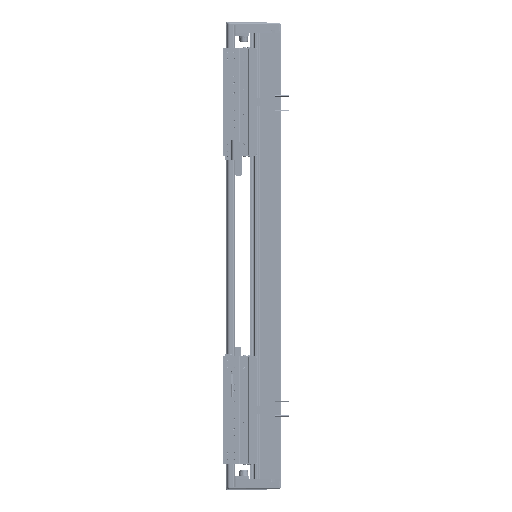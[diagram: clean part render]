
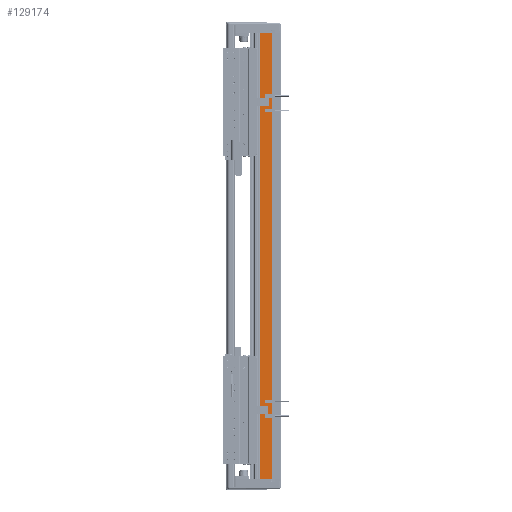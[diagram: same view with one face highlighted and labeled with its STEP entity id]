
A CAD part, left-side view. The second image highlights one B-rep face of the part: STEP entity #129174.
In plain terms, the highlighted planar face has unit normal (-1, 0, 0).
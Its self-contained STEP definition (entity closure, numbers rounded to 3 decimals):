
#6508 = LINE ( 'NONE', #88498, #97345 ) ;
#9985 = CARTESIAN_POINT ( 'NONE',  ( -97.5, 36.95, 390. ) ) ;
#10191 = DIRECTION ( 'NONE',  ( 0., 0., -1. ) ) ;
#12859 = ORIENTED_EDGE ( 'NONE', *, *, #53164, .T. ) ;
#19319 = ORIENTED_EDGE ( 'NONE', *, *, #35485, .F. ) ;
#27868 = EDGE_CURVE ( 'NONE', #84071, #114273, #121981, .T. ) ;
#30874 = CARTESIAN_POINT ( 'NONE',  ( -97.5, 36.95, 390. ) ) ;
#30904 = PLANE ( 'NONE',  #139855 ) ;
#31644 = CARTESIAN_POINT ( 'NONE',  ( -97.5, 36.95, 390. ) ) ;
#35177 = DIRECTION ( 'NONE',  ( 0., -1., 0. ) ) ;
#35485 = EDGE_CURVE ( 'NONE', #114273, #126730, #6508, .T. ) ;
#41955 = VECTOR ( 'NONE', #35177, 1000. ) ;
#42534 = CARTESIAN_POINT ( 'NONE',  ( -97.5, 36.95, 390. ) ) ;
#46505 = ORIENTED_EDGE ( 'NONE', *, *, #82977, .T. ) ;
#53164 = EDGE_CURVE ( 'NONE', #84071, #137789, #133621, .T. ) ;
#54900 = CARTESIAN_POINT ( 'NONE',  ( -97.5, 36.95, -390. ) ) ;
#55934 = VECTOR ( 'NONE', #10191, 1000. ) ;
#76131 = DIRECTION ( 'NONE',  ( 1., 0., 0. ) ) ;
#78362 = DIRECTION ( 'NONE',  ( 0., 1., 0. ) ) ;
#80636 = CARTESIAN_POINT ( 'NONE',  ( -97.5, 14.45, -390. ) ) ;
#82977 = EDGE_CURVE ( 'NONE', #137789, #126730, #112127, .T. ) ;
#84071 = VERTEX_POINT ( 'NONE', #9985 ) ;
#87285 = EDGE_LOOP ( 'NONE', ( #46505, #19319, #127595, #12859 ) ) ;
#87764 = DIRECTION ( 'NONE',  ( 0., 0., -1. ) ) ;
#88498 = CARTESIAN_POINT ( 'NONE',  ( -97.5, 14.45, 390. ) ) ;
#97345 = VECTOR ( 'NONE', #87764, 1000. ) ;
#112127 = LINE ( 'NONE', #54900, #130683 ) ;
#114273 = VERTEX_POINT ( 'NONE', #138640 ) ;
#121981 = LINE ( 'NONE', #30874, #41955 ) ;
#126730 = VERTEX_POINT ( 'NONE', #80636 ) ;
#127595 = ORIENTED_EDGE ( 'NONE', *, *, #27868, .F. ) ;
#129174 = ADVANCED_FACE ( 'NONE', ( #146022 ), #30904, .F. ) ;
#130683 = VECTOR ( 'NONE', #146698, 1000. ) ;
#133621 = LINE ( 'NONE', #42534, #55934 ) ;
#137789 = VERTEX_POINT ( 'NONE', #143158 ) ;
#138640 = CARTESIAN_POINT ( 'NONE',  ( -97.5, 14.45, 390. ) ) ;
#139855 = AXIS2_PLACEMENT_3D ( 'NONE', #31644, #76131, #78362 ) ;
#143158 = CARTESIAN_POINT ( 'NONE',  ( -97.5, 36.95, -390. ) ) ;
#146022 = FACE_OUTER_BOUND ( 'NONE', #87285, .T. ) ;
#146698 = DIRECTION ( 'NONE',  ( 0., -1., 0. ) ) ;
